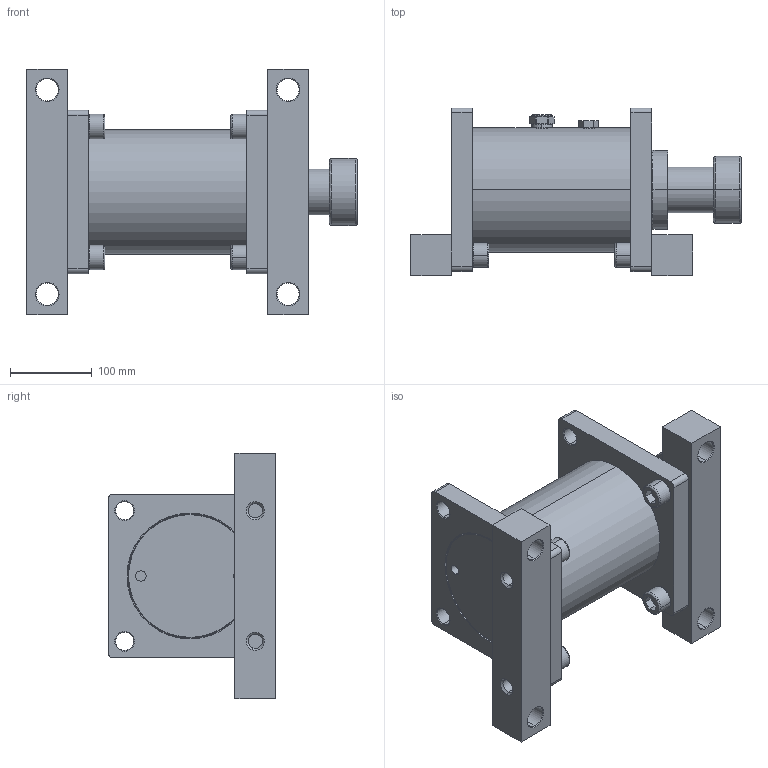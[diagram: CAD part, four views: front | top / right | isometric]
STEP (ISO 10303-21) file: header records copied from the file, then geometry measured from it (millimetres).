
FILE_DESCRIPTION (( 'STEP AP214' ), '1' );
FILE_NAME ('LDD3.5X2.STEP', '2019-01-16T08:04:05', ( 'user' ), ( 'Microsoft' ), 'SwSTEP 2.0', 'SolidWorks 2016', '' );
FILE_SCHEMA (( 'AUTOMOTIVE_DESIGN' ));
Length unit declared in the file: inch
Products named in the file (1): LDD3.5X2
Bounding box: 404.4 x 205 x 300 mm (x, y, z)
Surface area: 509057.3 mm2 (no closed solid volume)
Topology: 0 solids, 22 shells, 272 faces, 729 edges, 488 vertices
Faces by surface type: cylinder 94, plane 93, cone 53, bspline 32
Entity records: 15428 total; most frequent: CARTESIAN_POINT 8653, DIRECTION 1429, ORIENTED_EDGE 1318, EDGE_CURVE 729, AXIS2_PLACEMENT_3D 561, VERTEX_POINT 488, EDGE_LOOP 331, CIRCLE 320
